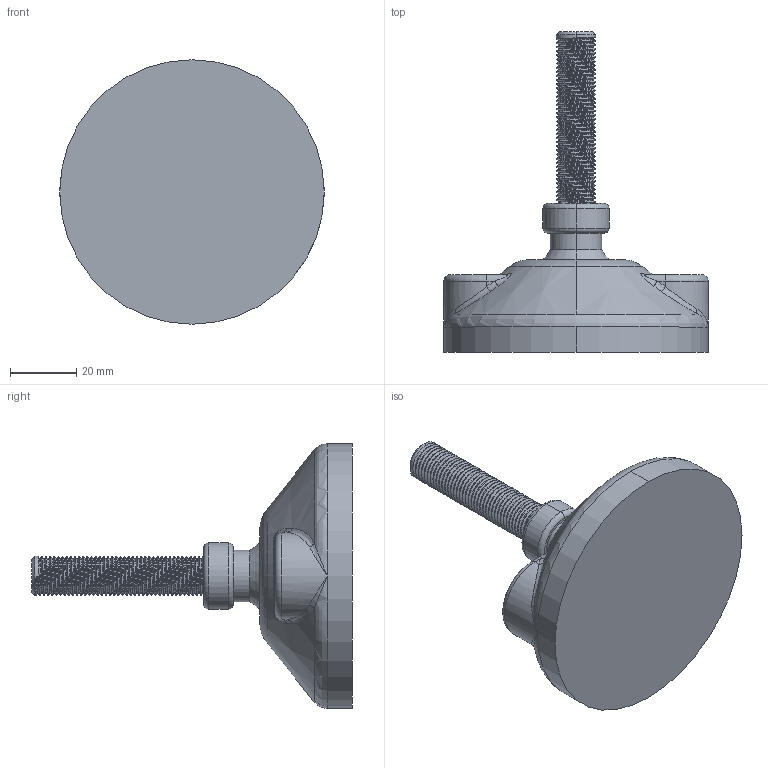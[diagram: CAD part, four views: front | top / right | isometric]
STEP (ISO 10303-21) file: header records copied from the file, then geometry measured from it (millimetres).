
FILE_DESCRIPTION (( 'STEP AP203' ), '1' );
FILE_NAME ('084.402.003.STEP', '2018-03-09T14:22:05', ( '' ), ( '' ), 'SwSTEP 2.0', 'SolidWorks 2016', '' );
FILE_SCHEMA (( 'CONFIG_CONTROL_DESIGN' ));
Length unit declared in the file: millimetre
Products named in the file (1): 084.402.003
Bounding box: 80 x 97 x 80 mm (x, y, z)
Volume: 113456.8 mm3; surface area: 18884.2 mm2
Topology: 2 solids, 2 shells, 148 faces, 388 edges, 242 vertices
Faces by surface type: cylinder 95, bspline 20, plane 14, torus 13, cone 6
Entity records: 21553 total; most frequent: CARTESIAN_POINT 18396, ORIENTED_EDGE 768, DIRECTION 503, EDGE_CURVE 384, VERTEX_POINT 242, AXIS2_PLACEMENT_3D 197, EDGE_LOOP 150, FACE_OUTER_BOUND 148
